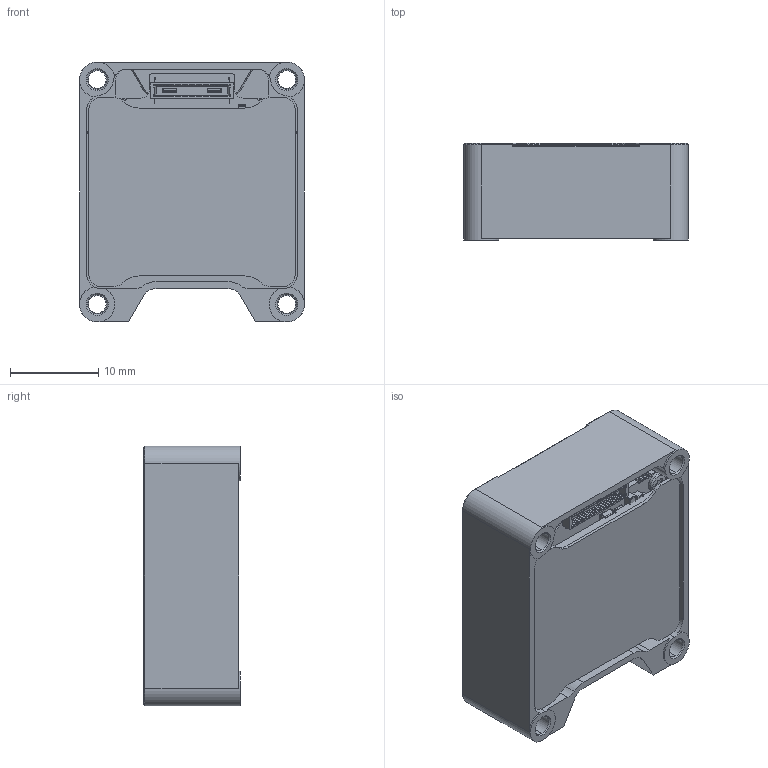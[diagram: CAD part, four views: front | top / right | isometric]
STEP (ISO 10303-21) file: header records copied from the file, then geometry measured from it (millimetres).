
FILE_DESCRIPTION (( 'STEP AP214' ), '1' );
FILE_NAME ('ELLIPSE-A-E-O-GEN3.STEP', '2020-11-23T09:15:12', ( '' ), ( '' ), 'SwSTEP 2.0', 'SolidWorks 2020', '' );
FILE_SCHEMA (( 'AUTOMOTIVE_DESIGN' ));
Length unit declared in the file: millimetre
Products named in the file (1): ELLIPSE-A-E-O-GEN3
Bounding box: 25.5 x 11 x 29.5 mm (x, y, z)
Surface area: 4369.6 mm2 (no closed solid volume)
Topology: 0 solids, 34 shells, 561 faces, 1915 edges, 1325 vertices
Faces by surface type: cylinder 244, plane 226, torus 50, cone 36, sphere 5
Entity records: 27953 total; most frequent: CARTESIAN_POINT 7694, ORIENTED_EDGE 2819, DIRECTION 2335, EDGE_CURVE 1914, VERTEX_POINT 1325, B_SPLINE_CURVE_WITH_KNOTS 1035, AXIS2_PLACEMENT_3D 894, EDGE_LOOP 579
